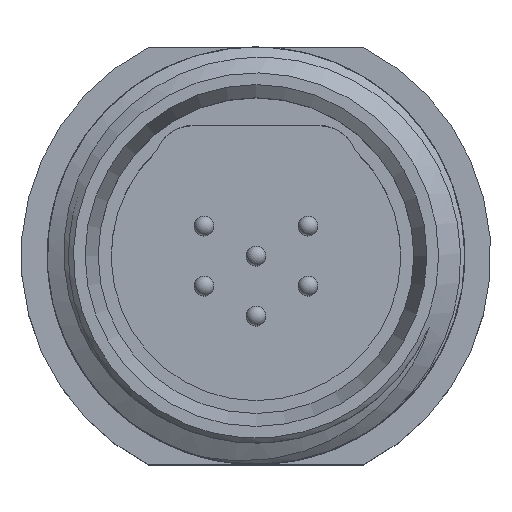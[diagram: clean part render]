
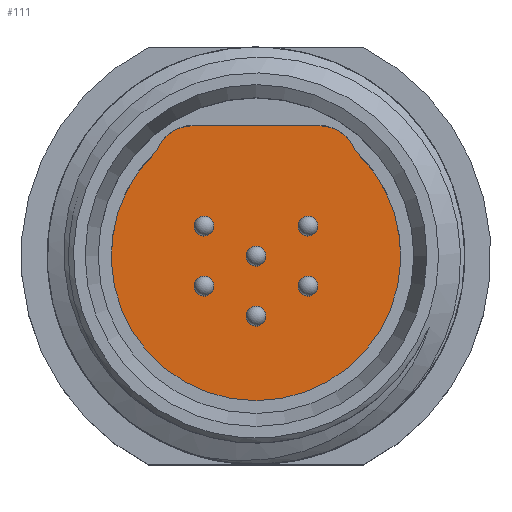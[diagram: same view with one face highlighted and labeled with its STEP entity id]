
A CAD part, top view. The second image highlights one B-rep face of the part: STEP entity #111.
In plain terms, the highlighted planar face has unit normal (0, 0, 1).
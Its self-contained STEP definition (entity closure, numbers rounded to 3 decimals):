
#23 = DIRECTION ( 'NONE',  ( -1., 0., 0. ) ) ;
#25 = DIRECTION ( 'NONE',  ( 0., 0., 1. ) ) ;
#29 = CARTESIAN_POINT ( 'NONE',  ( 1.992, -1.15, 0. ) ) ;
#41 = FACE_BOUND ( 'NONE', #4000, .T. ) ;
#58 = AXIS2_PLACEMENT_3D ( 'NONE', #4401, #903, #1790 ) ;
#70 = FACE_BOUND ( 'NONE', #1894, .T. ) ;
#111 = ADVANCED_FACE ( 'NONE', ( #41, #2670, #4424, #70, #5044, #618, #4217 ), #1115, .F. ) ;
#219 = AXIS2_PLACEMENT_3D ( 'NONE', #5143, #3958, #23 ) ;
#286 = DIRECTION ( 'NONE',  ( -1., 0., 0. ) ) ;
#343 = ORIENTED_EDGE ( 'NONE', *, *, #5415, .T. ) ;
#350 = CARTESIAN_POINT ( 'NONE',  ( 1.992, 1.15, 0. ) ) ;
#490 = CARTESIAN_POINT ( 'NONE',  ( -2.409, 5., 0. ) ) ;
#618 = FACE_BOUND ( 'NONE', #3029, .T. ) ;
#668 = VERTEX_POINT ( 'NONE', #3379 ) ;
#711 = VERTEX_POINT ( 'NONE', #4205 ) ;
#770 = ORIENTED_EDGE ( 'NONE', *, *, #5666, .T. ) ;
#780 = EDGE_LOOP ( 'NONE', ( #1286, #343, #770, #2212 ) ) ;
#836 = EDGE_CURVE ( 'NONE', #3729, #3729, #3249, .T. ) ;
#862 = VERTEX_POINT ( 'NONE', #864 ) ;
#864 = CARTESIAN_POINT ( 'NONE',  ( -3.81, 4.036, 0. ) ) ;
#893 = CIRCLE ( 'NONE', #2891, 0.381 ) ;
#903 = DIRECTION ( 'NONE',  ( 0., 0., 1. ) ) ;
#945 = DIRECTION ( 'NONE',  ( -1., 0., 0. ) ) ;
#1115 = PLANE ( 'NONE',  #1965 ) ;
#1167 = DIRECTION ( 'NONE',  ( 1., 0., 0. ) ) ;
#1286 = ORIENTED_EDGE ( 'NONE', *, *, #2049, .T. ) ;
#1479 = DIRECTION ( 'NONE',  ( 0., 0., 1. ) ) ;
#1655 = CARTESIAN_POINT ( 'NONE',  ( 2.409, 5., 0. ) ) ;
#1790 = DIRECTION ( 'NONE',  ( -1., 0., 0. ) ) ;
#1856 = CARTESIAN_POINT ( 'NONE',  ( 0., 0., 0. ) ) ;
#1865 = ORIENTED_EDGE ( 'NONE', *, *, #5130, .F. ) ;
#1894 = EDGE_LOOP ( 'NONE', ( #2097 ) ) ;
#1948 = EDGE_CURVE ( 'NONE', #4746, #4746, #5536, .T. ) ;
#1965 = AXIS2_PLACEMENT_3D ( 'NONE', #4142, #3687, #286 ) ;
#1984 = CIRCLE ( 'NONE', #5180, 5.55 ) ;
#2047 = AXIS2_PLACEMENT_3D ( 'NONE', #350, #3856, #3944 ) ;
#2049 = EDGE_CURVE ( 'NONE', #3003, #2726, #4907, .T. ) ;
#2097 = ORIENTED_EDGE ( 'NONE', *, *, #3645, .F. ) ;
#2212 = ORIENTED_EDGE ( 'NONE', *, *, #2385, .T. ) ;
#2375 = CARTESIAN_POINT ( 'NONE',  ( -2.409, 3.5, 0. ) ) ;
#2385 = EDGE_CURVE ( 'NONE', #668, #3003, #2593, .T. ) ;
#2399 = DIRECTION ( 'NONE',  ( 1., 0., 0. ) ) ;
#2413 = VECTOR ( 'NONE', #4849, 1000. ) ;
#2593 = CIRCLE ( 'NONE', #3241, 1.5 ) ;
#2627 = CIRCLE ( 'NONE', #4016, 1.5 ) ;
#2628 = CARTESIAN_POINT ( 'NONE',  ( -1.992, 1.15, 0. ) ) ;
#2670 = FACE_BOUND ( 'NONE', #3878, .T. ) ;
#2726 = VERTEX_POINT ( 'NONE', #3377 ) ;
#2812 = EDGE_LOOP ( 'NONE', ( #3469 ) ) ;
#2837 = ORIENTED_EDGE ( 'NONE', *, *, #1948, .F. ) ;
#2872 = AXIS2_PLACEMENT_3D ( 'NONE', #4872, #3471, #945 ) ;
#2891 = AXIS2_PLACEMENT_3D ( 'NONE', #29, #3090, #4842 ) ;
#2930 = VERTEX_POINT ( 'NONE', #5552 ) ;
#3003 = VERTEX_POINT ( 'NONE', #1655 ) ;
#3029 = EDGE_LOOP ( 'NONE', ( #1865 ) ) ;
#3031 = EDGE_CURVE ( 'NONE', #5492, #5492, #3615, .T. ) ;
#3083 = CIRCLE ( 'NONE', #4273, 0.381 ) ;
#3090 = DIRECTION ( 'NONE',  ( 0., 0., 1. ) ) ;
#3155 = ORIENTED_EDGE ( 'NONE', *, *, #4723, .F. ) ;
#3235 = DIRECTION ( 'NONE',  ( 1., 0., 0. ) ) ;
#3241 = AXIS2_PLACEMENT_3D ( 'NONE', #3359, #5096, #1167 ) ;
#3249 = CIRCLE ( 'NONE', #2872, 0.381 ) ;
#3359 = CARTESIAN_POINT ( 'NONE',  ( 2.409, 3.5, 0. ) ) ;
#3377 = CARTESIAN_POINT ( 'NONE',  ( -2.409, 5., 0. ) ) ;
#3379 = CARTESIAN_POINT ( 'NONE',  ( 3.81, 4.036, 0. ) ) ;
#3401 = CARTESIAN_POINT ( 'NONE',  ( -0.381, 0., 0. ) ) ;
#3469 = ORIENTED_EDGE ( 'NONE', *, *, #836, .F. ) ;
#3471 = DIRECTION ( 'NONE',  ( 0., 0., 1. ) ) ;
#3557 = EDGE_LOOP ( 'NONE', ( #2837 ) ) ;
#3615 = CIRCLE ( 'NONE', #219, 0.381 ) ;
#3645 = EDGE_CURVE ( 'NONE', #5138, #5138, #4815, .T. ) ;
#3687 = DIRECTION ( 'NONE',  ( 0., 0., -1. ) ) ;
#3729 = VERTEX_POINT ( 'NONE', #4104 ) ;
#3739 = ORIENTED_EDGE ( 'NONE', *, *, #3031, .F. ) ;
#3812 = CARTESIAN_POINT ( 'NONE',  ( -2.373, -1.15, 0. ) ) ;
#3856 = DIRECTION ( 'NONE',  ( 0., 0., 1. ) ) ;
#3878 = EDGE_LOOP ( 'NONE', ( #3155 ) ) ;
#3944 = DIRECTION ( 'NONE',  ( -1., 0., 0. ) ) ;
#3958 = DIRECTION ( 'NONE',  ( 0., 0., 1. ) ) ;
#4000 = EDGE_LOOP ( 'NONE', ( #3739 ) ) ;
#4016 = AXIS2_PLACEMENT_3D ( 'NONE', #2375, #1479, #3235 ) ;
#4104 = CARTESIAN_POINT ( 'NONE',  ( -0.381, -2.3, 0. ) ) ;
#4142 = CARTESIAN_POINT ( 'NONE',  ( 0., 5., 0. ) ) ;
#4205 = CARTESIAN_POINT ( 'NONE',  ( 1.611, -1.15, 0. ) ) ;
#4217 = FACE_OUTER_BOUND ( 'NONE', #780, .T. ) ;
#4273 = AXIS2_PLACEMENT_3D ( 'NONE', #2628, #25, #5260 ) ;
#4401 = CARTESIAN_POINT ( 'NONE',  ( -1.992, -1.15, 0. ) ) ;
#4424 = FACE_BOUND ( 'NONE', #2812, .T. ) ;
#4607 = DIRECTION ( 'NONE',  ( 0., 0., 1. ) ) ;
#4723 = EDGE_CURVE ( 'NONE', #711, #711, #893, .T. ) ;
#4746 = VERTEX_POINT ( 'NONE', #5111 ) ;
#4815 = CIRCLE ( 'NONE', #58, 0.381 ) ;
#4842 = DIRECTION ( 'NONE',  ( -1., 0., 0. ) ) ;
#4849 = DIRECTION ( 'NONE',  ( -1., 0., 0. ) ) ;
#4872 = CARTESIAN_POINT ( 'NONE',  ( 0., -2.3, 0. ) ) ;
#4907 = LINE ( 'NONE', #490, #2413 ) ;
#5044 = FACE_BOUND ( 'NONE', #3557, .T. ) ;
#5096 = DIRECTION ( 'NONE',  ( 0., 0., 1. ) ) ;
#5111 = CARTESIAN_POINT ( 'NONE',  ( 1.611, 1.15, 0. ) ) ;
#5130 = EDGE_CURVE ( 'NONE', #2930, #2930, #3083, .T. ) ;
#5138 = VERTEX_POINT ( 'NONE', #3812 ) ;
#5143 = CARTESIAN_POINT ( 'NONE',  ( 0., 0., 0. ) ) ;
#5180 = AXIS2_PLACEMENT_3D ( 'NONE', #1856, #4607, #2399 ) ;
#5260 = DIRECTION ( 'NONE',  ( -1., 0., 0. ) ) ;
#5415 = EDGE_CURVE ( 'NONE', #2726, #862, #2627, .T. ) ;
#5492 = VERTEX_POINT ( 'NONE', #3401 ) ;
#5536 = CIRCLE ( 'NONE', #2047, 0.381 ) ;
#5552 = CARTESIAN_POINT ( 'NONE',  ( -2.373, 1.15, 0. ) ) ;
#5666 = EDGE_CURVE ( 'NONE', #862, #668, #1984, .T. ) ;
